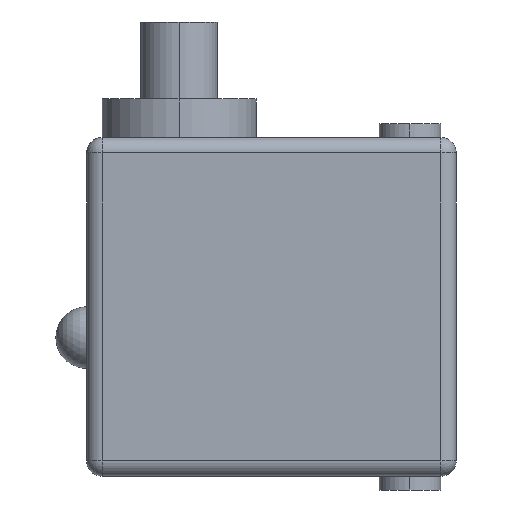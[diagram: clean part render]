
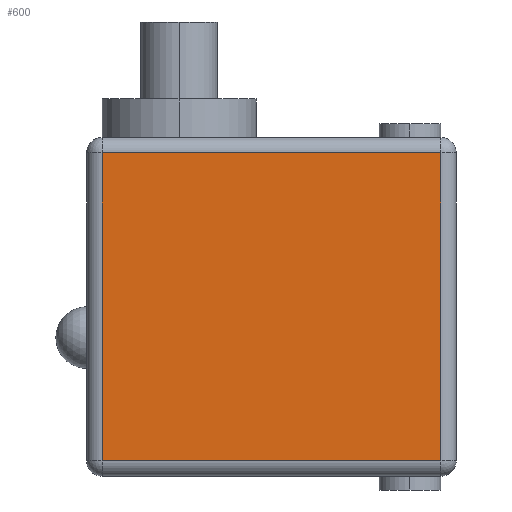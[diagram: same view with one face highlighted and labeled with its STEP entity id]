
A CAD part, left-side view. The second image highlights one B-rep face of the part: STEP entity #600.
In plain terms, the highlighted planar face has unit normal (-1, 0, 0).
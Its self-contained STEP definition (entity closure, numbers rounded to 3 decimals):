
#2=DIRECTION('',(0.,1.,0.));
#3=VECTOR('',#2,22.);
#4=CARTESIAN_POINT('',(-8.,1.,10.));
#5=LINE('1443',#4,#3);
#20=DIRECTION('',(0.,0.,-1.));
#21=VECTOR('',#20,20.);
#22=CARTESIAN_POINT('',(-8.,23.,10.));
#23=LINE('1461',#22,#21);
#38=DIRECTION('',(0.,-1.,0.));
#39=VECTOR('',#38,22.);
#40=CARTESIAN_POINT('',(-8.,23.,-10.));
#41=LINE('1451',#40,#39);
#56=DIRECTION('',(0.,0.,1.));
#57=VECTOR('',#56,20.);
#58=CARTESIAN_POINT('',(-8.,1.,-10.));
#59=LINE('1453',#58,#57);
#481=CARTESIAN_POINT('',(-8.,1.,10.));
#482=CARTESIAN_POINT('',(-8.,23.,10.));
#483=VERTEX_POINT('',#481);
#484=VERTEX_POINT('',#482);
#503=CARTESIAN_POINT('',(-8.,23.,-10.));
#504=CARTESIAN_POINT('',(-8.,1.,-10.));
#505=VERTEX_POINT('',#503);
#506=VERTEX_POINT('',#504);
#585=CARTESIAN_POINT('',(-8.,0.,0.));
#586=DIRECTION('',(1.,0.,0.));
#587=DIRECTION('',(0.,0.,-1.));
#588=AXIS2_PLACEMENT_3D('',#585,#586,#587);
#589=PLANE('1268',#588);
#591=ORIENTED_EDGE('1443',*,*,#590,.F.);
#593=ORIENTED_EDGE('1453',*,*,#592,.F.);
#595=ORIENTED_EDGE('1451',*,*,#594,.F.);
#597=ORIENTED_EDGE('1461',*,*,#596,.F.);
#598=EDGE_LOOP('1268',(#591,#593,#595,#597));
#599=FACE_OUTER_BOUND('1268',#598,.F.);
#600=ADVANCED_FACE('1268',(#599),#589,.F.);
#590=EDGE_CURVE('1443',#483,#484,#5,.T.);
#592=EDGE_CURVE('1453',#506,#483,#59,.T.);
#594=EDGE_CURVE('1451',#505,#506,#41,.T.);
#596=EDGE_CURVE('1461',#484,#505,#23,.T.);
